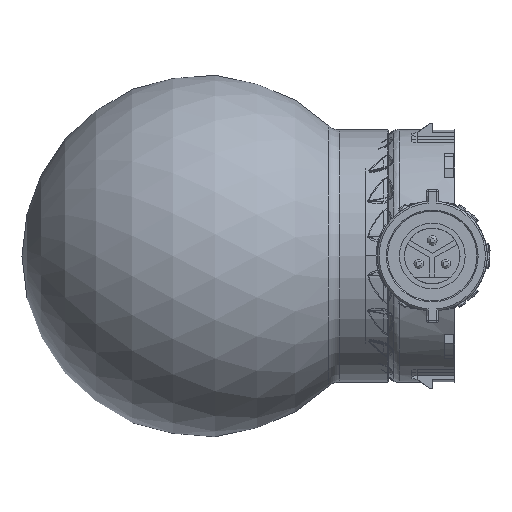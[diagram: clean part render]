
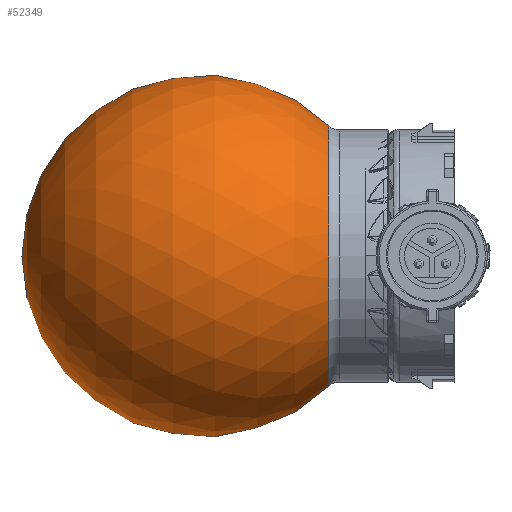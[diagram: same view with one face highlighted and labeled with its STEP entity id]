
A CAD part, left-side view. The second image highlights one B-rep face of the part: STEP entity #52349.
In plain terms, the highlighted spherical face has radius 30 mm.
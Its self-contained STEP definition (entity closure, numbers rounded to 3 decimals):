
#3043 = CARTESIAN_POINT ( 'NONE',  ( 0., 20.853, 21.577 ) ) ;
#12613 = FACE_BOUND ( 'NONE', #29609, .T. ) ;
#15633 = VERTEX_POINT ( 'NONE', #23610 ) ;
#22651 = CARTESIAN_POINT ( 'NONE',  ( 0., 20.853, 0. ) ) ;
#23610 = CARTESIAN_POINT ( 'NONE',  ( 0., 20.853, -21.577 ) ) ;
#29609 = EDGE_LOOP ( 'NONE', ( #83586, #42916 ) ) ;
#32583 = AXIS2_PLACEMENT_3D ( 'NONE', #22651, #87036, #58713 ) ;
#33708 = CARTESIAN_POINT ( 'NONE',  ( 0., 20.853, 0. ) ) ;
#42916 = ORIENTED_EDGE ( 'NONE', *, *, #54414, .F. ) ;
#45768 = CIRCLE ( 'NONE', #79777, 21.577 ) ;
#47603 = DIRECTION ( 'NONE',  ( 0., -1., 0. ) ) ;
#52349 = ADVANCED_FACE ( 'NONE', ( #12613 ), #55644, .T. ) ;
#53828 = DIRECTION ( 'NONE',  ( 1., 0., 0. ) ) ;
#54414 = EDGE_CURVE ( 'NONE', #58659, #15633, #75539, .T. ) ;
#55644 = SPHERICAL_SURFACE ( 'NONE', #78475, 30. ) ;
#58659 = VERTEX_POINT ( 'NONE', #3043 ) ;
#58713 = DIRECTION ( 'NONE',  ( 0., 0., -1. ) ) ;
#60783 = DIRECTION ( 'NONE',  ( 0., 1., 0. ) ) ;
#67755 = CARTESIAN_POINT ( 'NONE',  ( 0., 41.696, 0. ) ) ;
#75539 = CIRCLE ( 'NONE', #32583, 21.577 ) ;
#78475 = AXIS2_PLACEMENT_3D ( 'NONE', #67755, #60783, #53828 ) ;
#79777 = AXIS2_PLACEMENT_3D ( 'NONE', #33708, #47603, #83283 ) ;
#83283 = DIRECTION ( 'NONE',  ( 0., 0., -1. ) ) ;
#83586 = ORIENTED_EDGE ( 'NONE', *, *, #90426, .F. ) ;
#87036 = DIRECTION ( 'NONE',  ( 0., -1., 0. ) ) ;
#90426 = EDGE_CURVE ( 'NONE', #15633, #58659, #45768, .T. ) ;
